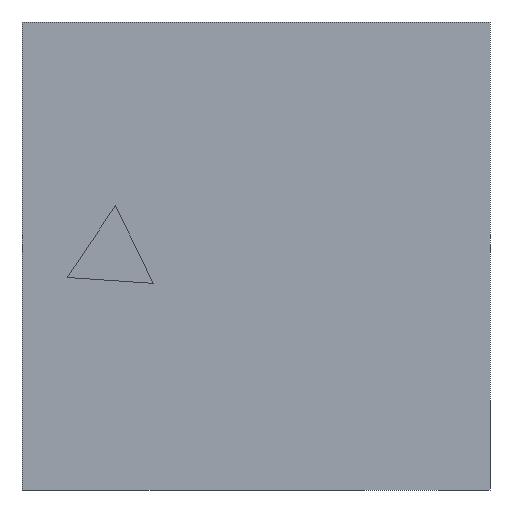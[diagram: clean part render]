
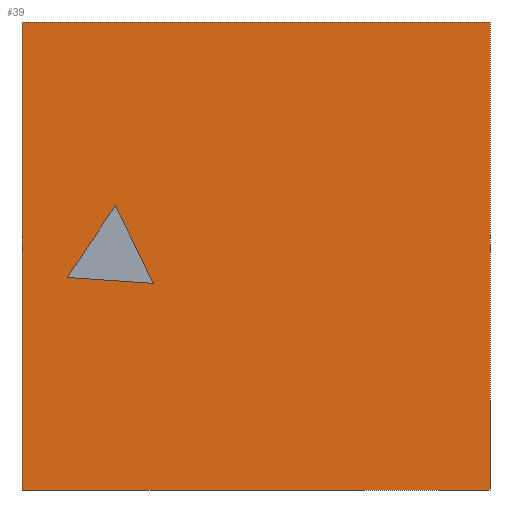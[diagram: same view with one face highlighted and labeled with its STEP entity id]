
A CAD part, left-side view. The second image highlights one B-rep face of the part: STEP entity #39.
In plain terms, the highlighted planar face has unit normal (-1, 0, 0).
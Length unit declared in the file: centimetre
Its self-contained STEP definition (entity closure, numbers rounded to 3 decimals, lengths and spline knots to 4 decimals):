
#30 = CARTESIAN_POINT ( 'NONE',  ( 0., 719.2288, 441.4541 ) ) ;
#39 = ADVANCED_FACE ( 'NONE', ( #539, #773 ), #717, .F. ) ;
#41 = ORIENTED_EDGE ( 'NONE', *, *, #712, .T. ) ;
#93 = LINE ( 'NONE', #675, #357 ) ;
#108 = VERTEX_POINT ( 'NONE', #607 ) ;
#120 = VECTOR ( 'NONE', #736, 100. ) ;
#138 = ORIENTED_EDGE ( 'NONE', *, *, #238, .F. ) ;
#143 = CARTESIAN_POINT ( 'NONE',  ( 0., 719.2288, 441.4541 ) ) ;
#149 = CARTESIAN_POINT ( 'NONE',  ( 0., 1000., 1000. ) ) ;
#164 = CARTESIAN_POINT ( 'NONE',  ( 0., 1000., 1000. ) ) ;
#178 = EDGE_CURVE ( 'NONE', #534, #270, #364, .T. ) ;
#186 = DIRECTION ( 'NONE',  ( 0., 0., -1. ) ) ;
#203 = ORIENTED_EDGE ( 'NONE', *, *, #205, .F. ) ;
#204 = DIRECTION ( 'NONE',  ( 0., -1., 0. ) ) ;
#205 = EDGE_CURVE ( 'NONE', #769, #534, #455, .T. ) ;
#218 = VERTEX_POINT ( 'NONE', #30 ) ;
#232 = VECTOR ( 'NONE', #204, 100. ) ;
#238 = EDGE_CURVE ( 'NONE', #218, #643, #387, .T. ) ;
#243 = EDGE_CURVE ( 'NONE', #451, #218, #93, .T. ) ;
#248 = DIRECTION ( 'NONE',  ( 0., -1., 0. ) ) ;
#270 = VERTEX_POINT ( 'NONE', #512 ) ;
#272 = VECTOR ( 'NONE', #434, 100. ) ;
#279 = ORIENTED_EDGE ( 'NONE', *, *, #243, .F. ) ;
#303 = CARTESIAN_POINT ( 'NONE',  ( 0., 0., 1000. ) ) ;
#357 = VECTOR ( 'NONE', #626, 100. ) ;
#358 = EDGE_CURVE ( 'NONE', #769, #108, #431, .T. ) ;
#364 = LINE ( 'NONE', #303, #536 ) ;
#387 = LINE ( 'NONE', #143, #120 ) ;
#390 = LINE ( 'NONE', #629, #425 ) ;
#393 = ORIENTED_EDGE ( 'NONE', *, *, #358, .T. ) ;
#401 = CARTESIAN_POINT ( 'NONE',  ( 0., 800.3794, 607.3267 ) ) ;
#407 = EDGE_LOOP ( 'NONE', ( #41, #687, #203, #393 ) ) ;
#408 = DIRECTION ( 'NONE',  ( 1., 0., 0. ) ) ;
#409 = CARTESIAN_POINT ( 'NONE',  ( 0., 903.454, 454.112 ) ) ;
#425 = VECTOR ( 'NONE', #248, 100. ) ;
#431 = LINE ( 'NONE', #553, #272 ) ;
#434 = DIRECTION ( 'NONE',  ( 0., 0., -1. ) ) ;
#451 = VERTEX_POINT ( 'NONE', #409 ) ;
#455 = LINE ( 'NONE', #149, #232 ) ;
#463 = CARTESIAN_POINT ( 'NONE',  ( 0., 0., 1000. ) ) ;
#483 = EDGE_CURVE ( 'NONE', #643, #451, #586, .T. ) ;
#512 = CARTESIAN_POINT ( 'NONE',  ( 0., 0., 0. ) ) ;
#534 = VERTEX_POINT ( 'NONE', #463 ) ;
#536 = VECTOR ( 'NONE', #186, 100. ) ;
#539 = FACE_BOUND ( 'NONE', #745, .T. ) ;
#553 = CARTESIAN_POINT ( 'NONE',  ( 0., 1000., 1000. ) ) ;
#583 = DIRECTION ( 'NONE',  ( 0., 0.558, -0.83 ) ) ;
#586 = LINE ( 'NONE', #401, #653 ) ;
#594 = ORIENTED_EDGE ( 'NONE', *, *, #483, .F. ) ;
#603 = AXIS2_PLACEMENT_3D ( 'NONE', #164, #408, #648 ) ;
#607 = CARTESIAN_POINT ( 'NONE',  ( 0., 1000., 0. ) ) ;
#626 = DIRECTION ( 'NONE',  ( 0., -0.998, -0.069 ) ) ;
#629 = CARTESIAN_POINT ( 'NONE',  ( 0., 1000., 0. ) ) ;
#643 = VERTEX_POINT ( 'NONE', #663 ) ;
#648 = DIRECTION ( 'NONE',  ( 0., 0., -1. ) ) ;
#653 = VECTOR ( 'NONE', #583, 100. ) ;
#663 = CARTESIAN_POINT ( 'NONE',  ( 0., 800.3794, 607.3267 ) ) ;
#675 = CARTESIAN_POINT ( 'NONE',  ( 0., 903.454, 454.112 ) ) ;
#687 = ORIENTED_EDGE ( 'NONE', *, *, #178, .F. ) ;
#706 = CARTESIAN_POINT ( 'NONE',  ( 0., 1000., 1000. ) ) ;
#712 = EDGE_CURVE ( 'NONE', #108, #270, #390, .T. ) ;
#717 = PLANE ( 'NONE',  #603 ) ;
#736 = DIRECTION ( 'NONE',  ( 0., 0.439, 0.898 ) ) ;
#745 = EDGE_LOOP ( 'NONE', ( #138, #279, #594 ) ) ;
#769 = VERTEX_POINT ( 'NONE', #706 ) ;
#773 = FACE_OUTER_BOUND ( 'NONE', #407, .T. ) ;
